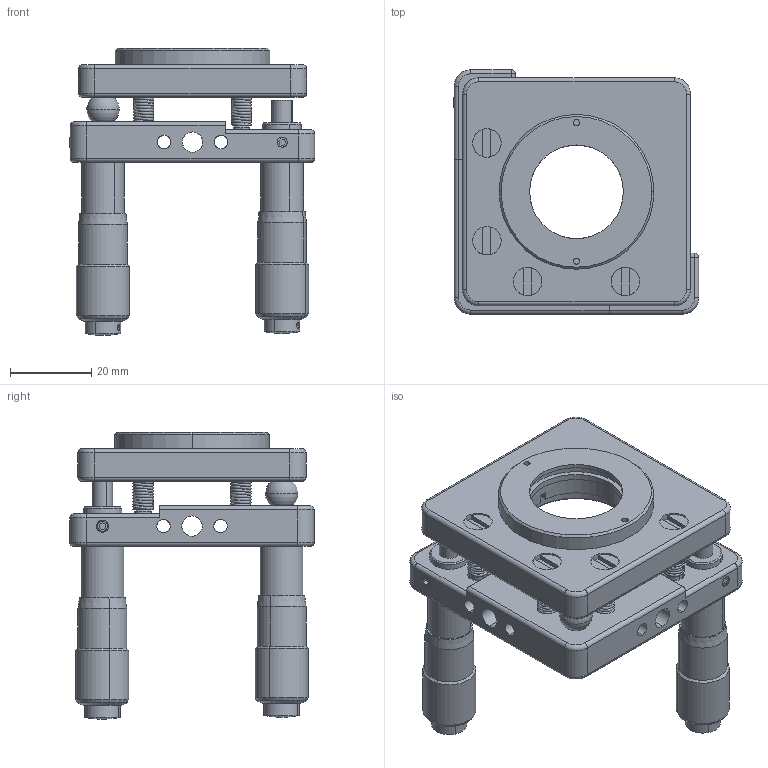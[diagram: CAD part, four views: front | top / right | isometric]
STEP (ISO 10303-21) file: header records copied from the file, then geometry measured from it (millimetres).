
FILE_DESCRIPTION (( 'STEP AP203' ), '1' );
FILE_NAME ('7MM06254A謗峎覃淕噩殤.STEP', '2019-10-17T08:58:44', ( '' ), ( '' ), 'SwSTEP 2.0', 'SolidWorks 2014', '' );
FILE_SCHEMA (( 'CONFIG_CONTROL_DESIGN' ));
Length unit declared in the file: millimetre
Products named in the file (1): 7MM06254A謗峎覃淕噩殤
Bounding box: 60.25 x 60 x 70.49 mm (x, y, z)
Surface area: 24092.4 mm2 (no closed solid volume)
Topology: 0 solids, 37 shells, 303 faces, 827 edges, 545 vertices
Faces by surface type: cylinder 129, plane 110, cone 32, torus 14, sphere 10, bspline 8
Entity records: 20546 total; most frequent: CARTESIAN_POINT 12772, DIRECTION 1746, ORIENTED_EDGE 1361, EDGE_CURVE 818, AXIS2_PLACEMENT_3D 692, VERTEX_POINT 542, CIRCLE 396, EDGE_LOOP 366
